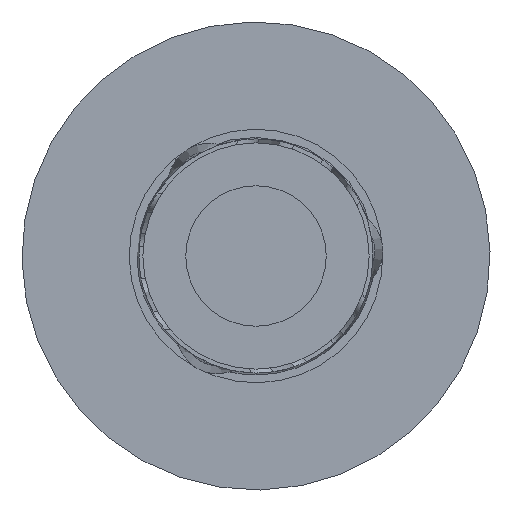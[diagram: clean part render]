
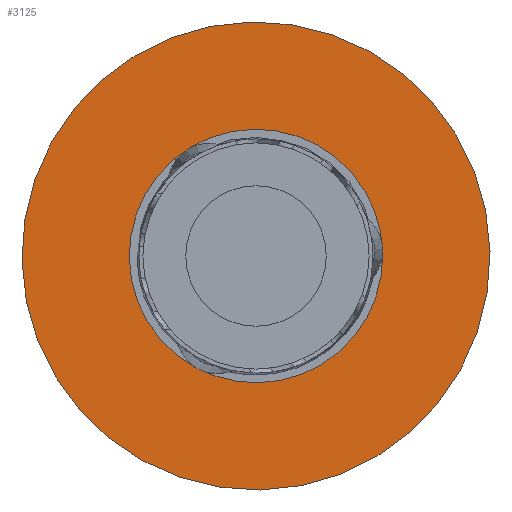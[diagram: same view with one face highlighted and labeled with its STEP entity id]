
A CAD part, front view. The second image highlights one B-rep face of the part: STEP entity #3125.
In plain terms, the highlighted planar face has unit normal (0, -1, 0).
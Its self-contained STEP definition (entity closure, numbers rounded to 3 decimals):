
#5 = ORIENTED_EDGE ( 'NONE', *, *, #3087, .F. ) ;
#275 = CIRCLE ( 'NONE', #1259, 6. ) ;
#622 = CARTESIAN_POINT ( 'NONE',  ( 0., 0., 0. ) ) ;
#749 = FACE_OUTER_BOUND ( 'NONE', #9053, .T. ) ;
#810 = DIRECTION ( 'NONE',  ( 0., 1., 0. ) ) ;
#1039 = VERTEX_POINT ( 'NONE', #1160 ) ;
#1160 = CARTESIAN_POINT ( 'NONE',  ( 0., 0., -6. ) ) ;
#1259 = AXIS2_PLACEMENT_3D ( 'NONE', #622, #11965, #5339 ) ;
#1373 = CARTESIAN_POINT ( 'NONE',  ( 0., 0., 0. ) ) ;
#1482 = DIRECTION ( 'NONE',  ( 0., 1., 0. ) ) ;
#1662 = DIRECTION ( 'NONE',  ( 0., 0., 1. ) ) ;
#1806 = AXIS2_PLACEMENT_3D ( 'NONE', #9763, #1482, #6008 ) ;
#2151 = EDGE_LOOP ( 'NONE', ( #11059, #6487 ) ) ;
#2452 = DIRECTION ( 'NONE',  ( 0., 1., 0. ) ) ;
#2506 = CARTESIAN_POINT ( 'NONE',  ( 0., 0., 0. ) ) ;
#2998 = AXIS2_PLACEMENT_3D ( 'NONE', #9944, #6411, #1662 ) ;
#3087 = EDGE_CURVE ( 'NONE', #6770, #1039, #4917, .T. ) ;
#3107 = EDGE_CURVE ( 'NONE', #1039, #6770, #275, .T. ) ;
#3125 = ADVANCED_FACE ( 'NONE', ( #749, #9828 ), #6304, .F. ) ;
#3277 = VERTEX_POINT ( 'NONE', #8550 ) ;
#3395 = DIRECTION ( 'NONE',  ( 0., 0., 1. ) ) ;
#4070 = CARTESIAN_POINT ( 'NONE',  ( 0., 0., 6. ) ) ;
#4182 = EDGE_CURVE ( 'NONE', #3277, #4297, #7839, .T. ) ;
#4297 = VERTEX_POINT ( 'NONE', #6773 ) ;
#4917 = CIRCLE ( 'NONE', #1806, 6. ) ;
#5232 = DIRECTION ( 'NONE',  ( 0., 0., 1. ) ) ;
#5339 = DIRECTION ( 'NONE',  ( 0., 0., 1. ) ) ;
#6008 = DIRECTION ( 'NONE',  ( 0., 0., 1. ) ) ;
#6304 = PLANE ( 'NONE',  #11395 ) ;
#6411 = DIRECTION ( 'NONE',  ( 0., 1., 0. ) ) ;
#6487 = ORIENTED_EDGE ( 'NONE', *, *, #11343, .T. ) ;
#6770 = VERTEX_POINT ( 'NONE', #4070 ) ;
#6773 = CARTESIAN_POINT ( 'NONE',  ( 0., 0., 3.25 ) ) ;
#7839 = CIRCLE ( 'NONE', #2998, 3.25 ) ;
#8550 = CARTESIAN_POINT ( 'NONE',  ( 0., 0., -3.25 ) ) ;
#9053 = EDGE_LOOP ( 'NONE', ( #10578, #5 ) ) ;
#9763 = CARTESIAN_POINT ( 'NONE',  ( 0., 0., 0. ) ) ;
#9828 = FACE_BOUND ( 'NONE', #2151, .T. ) ;
#9944 = CARTESIAN_POINT ( 'NONE',  ( 0., 0., 0. ) ) ;
#10578 = ORIENTED_EDGE ( 'NONE', *, *, #3107, .F. ) ;
#11059 = ORIENTED_EDGE ( 'NONE', *, *, #4182, .T. ) ;
#11343 = EDGE_CURVE ( 'NONE', #4297, #3277, #11364, .T. ) ;
#11364 = CIRCLE ( 'NONE', #11557, 3.25 ) ;
#11395 = AXIS2_PLACEMENT_3D ( 'NONE', #2506, #810, #3395 ) ;
#11557 = AXIS2_PLACEMENT_3D ( 'NONE', #1373, #2452, #5232 ) ;
#11965 = DIRECTION ( 'NONE',  ( 0., 1., 0. ) ) ;
